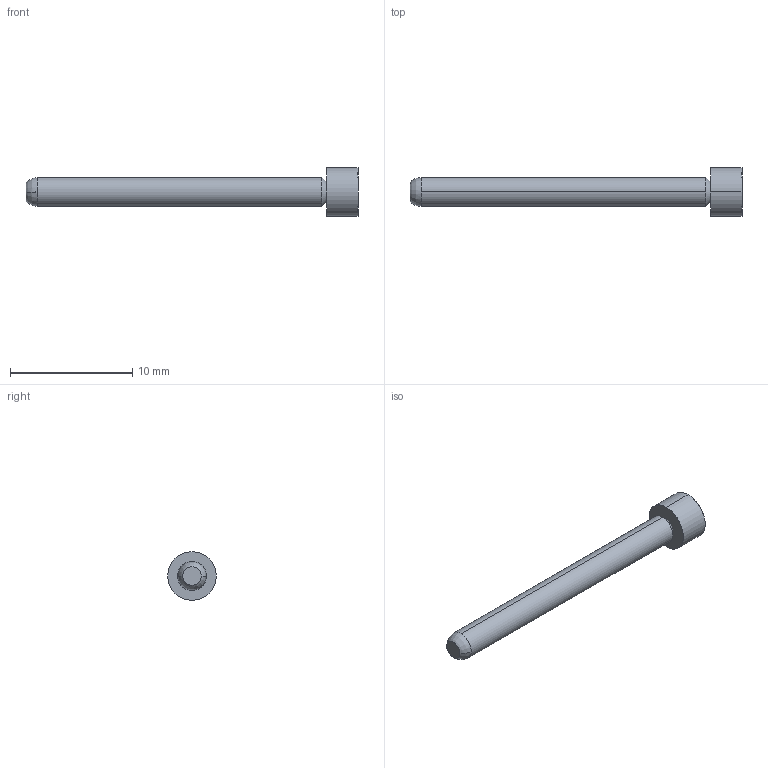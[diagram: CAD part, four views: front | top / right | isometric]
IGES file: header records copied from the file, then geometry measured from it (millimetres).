
Start section: SolidWorks IGES file using analytic representation for surfaces
Global section: file name: Z:\probe solid model mockups\Solidworks models\IGES Files\EPA-4 IGES files\EPA-4F Full.IGS; native system: SolidWorks 2006 by SolidWorks Corporation; preprocessor: SolidWorks 2006 by SolidWorks Corporation; author: tsakatani; date: 080103.104348; units: inch
Bounding box: 27.18 x 3.96 x 3.96 mm (x, y, z)
Surface area: 239.6 mm2 (no closed solid volume)
Topology: 0 solids, 0 shells, 11 faces, 132 edges, 132 vertices
Faces by surface type: revolution 8, bspline 3
